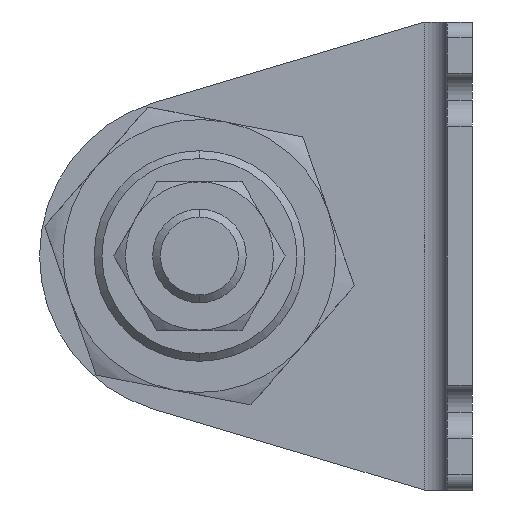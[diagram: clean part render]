
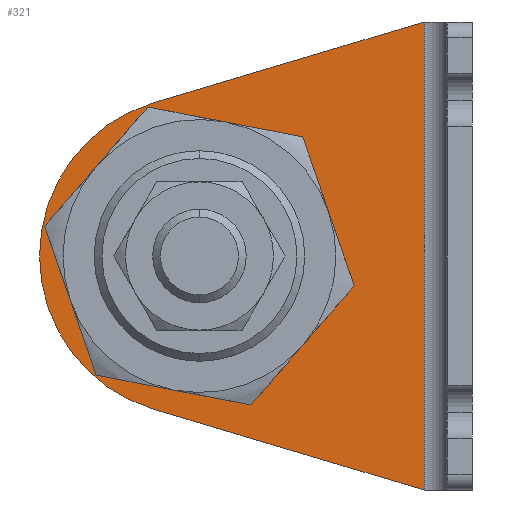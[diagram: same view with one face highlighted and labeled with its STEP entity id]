
A CAD part, left-side view. The second image highlights one B-rep face of the part: STEP entity #321.
In plain terms, the highlighted planar face has unit normal (-1, 0, 0) as drawn and (1, 0, 0) by its records, which use the part's own axes.
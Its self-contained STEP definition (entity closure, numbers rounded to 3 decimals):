
#66 = CARTESIAN_POINT ( 'NONE',  ( 3.2, 6.2, -60. ) ) ;
#124 = EDGE_CURVE ( 'NONE', #1640, #2498, #2735, .T. ) ;
#160 = ORIENTED_EDGE ( 'NONE', *, *, #2937, .T. ) ;
#205 = CARTESIAN_POINT ( 'NONE',  ( 3.2, 40.868, -49.642 ) ) ;
#275 = CARTESIAN_POINT ( 'NONE',  ( 3.2, 6.2, 0. ) ) ;
#284 = CARTESIAN_POINT ( 'NONE',  ( 3.2, 6.2, -60. ) ) ;
#313 = DIRECTION ( 'NONE',  ( 0., 1., 0. ) ) ;
#321 = ADVANCED_FACE ( 'NONE', ( #717, #616 ), #4004, .T. ) ;
#358 = CIRCLE ( 'NONE', #1111, 20.5 ) ;
#395 = DIRECTION ( 'NONE',  ( 0., 1., 0. ) ) ;
#490 = VERTEX_POINT ( 'NONE', #738 ) ;
#616 = FACE_OUTER_BOUND ( 'NONE', #1314, .T. ) ;
#717 = FACE_BOUND ( 'NONE', #4203, .T. ) ;
#738 = CARTESIAN_POINT ( 'NONE',  ( 3.2, 48.5, -30. ) ) ;
#749 = AXIS2_PLACEMENT_3D ( 'NONE', #2718, #2079, #395 ) ;
#796 = VERTEX_POINT ( 'NONE', #205 ) ;
#973 = AXIS2_PLACEMENT_3D ( 'NONE', #2663, #2623, #313 ) ;
#1028 = DIRECTION ( 'NONE',  ( 1., 0., 0. ) ) ;
#1050 = AXIS2_PLACEMENT_3D ( 'NONE', #3806, #3828, #3179 ) ;
#1111 = AXIS2_PLACEMENT_3D ( 'NONE', #2467, #2454, #3433 ) ;
#1294 = DIRECTION ( 'NONE',  ( 0., 0., -1. ) ) ;
#1314 = EDGE_LOOP ( 'NONE', ( #160, #3111, #2617, #2017, #3717 ) ) ;
#1616 = DIRECTION ( 'NONE',  ( 0., 0.958, -0.286 ) ) ;
#1640 = VERTEX_POINT ( 'NONE', #275 ) ;
#1666 = DIRECTION ( 'NONE',  ( 0., 1., 0. ) ) ;
#1740 = EDGE_CURVE ( 'NONE', #1640, #3005, #2110, .T. ) ;
#1903 = AXIS2_PLACEMENT_3D ( 'NONE', #2363, #1028, #1666 ) ;
#2017 = ORIENTED_EDGE ( 'NONE', *, *, #1740, .F. ) ;
#2079 = DIRECTION ( 'NONE',  ( 1., 0., 0. ) ) ;
#2110 = LINE ( 'NONE', #3981, #3925 ) ;
#2114 = LINE ( 'NONE', #2465, #3349 ) ;
#2124 = DIRECTION ( 'NONE',  ( 0., 0.958, 0.286 ) ) ;
#2363 = CARTESIAN_POINT ( 'NONE',  ( 3.2, 3.2, -60. ) ) ;
#2366 = EDGE_CURVE ( 'NONE', #3611, #490, #2902, .T. ) ;
#2429 = VECTOR ( 'NONE', #1294, 1000. ) ;
#2454 = DIRECTION ( 'NONE',  ( 1., 0., 0. ) ) ;
#2465 = CARTESIAN_POINT ( 'NONE',  ( 3.2, 3.446, -60.823 ) ) ;
#2467 = CARTESIAN_POINT ( 'NONE',  ( 3.2, 35., -30. ) ) ;
#2498 = VERTEX_POINT ( 'NONE', #66 ) ;
#2502 = ORIENTED_EDGE ( 'NONE', *, *, #2809, .F. ) ;
#2541 = CARTESIAN_POINT ( 'NONE',  ( 3.2, 40.868, -10.358 ) ) ;
#2617 = ORIENTED_EDGE ( 'NONE', *, *, #2705, .T. ) ;
#2623 = DIRECTION ( 'NONE',  ( 1., 0., 0. ) ) ;
#2641 = EDGE_CURVE ( 'NONE', #796, #4302, #358, .T. ) ;
#2663 = CARTESIAN_POINT ( 'NONE',  ( 3.2, 35., -30. ) ) ;
#2705 = EDGE_CURVE ( 'NONE', #4302, #3005, #3002, .T. ) ;
#2718 = CARTESIAN_POINT ( 'NONE',  ( 3.2, 35., -30. ) ) ;
#2735 = LINE ( 'NONE', #284, #2429 ) ;
#2809 = EDGE_CURVE ( 'NONE', #490, #3611, #3714, .T. ) ;
#2822 = ORIENTED_EDGE ( 'NONE', *, *, #2366, .F. ) ;
#2902 = CIRCLE ( 'NONE', #973, 13.5 ) ;
#2937 = EDGE_CURVE ( 'NONE', #2498, #796, #2114, .T. ) ;
#3002 = CIRCLE ( 'NONE', #749, 20.5 ) ;
#3005 = VERTEX_POINT ( 'NONE', #2541 ) ;
#3111 = ORIENTED_EDGE ( 'NONE', *, *, #2641, .T. ) ;
#3179 = DIRECTION ( 'NONE',  ( 0., 1., 0. ) ) ;
#3349 = VECTOR ( 'NONE', #2124, 1000. ) ;
#3433 = DIRECTION ( 'NONE',  ( 0., 1., 0. ) ) ;
#3611 = VERTEX_POINT ( 'NONE', #3941 ) ;
#3714 = CIRCLE ( 'NONE', #1050, 13.5 ) ;
#3717 = ORIENTED_EDGE ( 'NONE', *, *, #124, .T. ) ;
#3806 = CARTESIAN_POINT ( 'NONE',  ( 3.2, 35., -30. ) ) ;
#3828 = DIRECTION ( 'NONE',  ( 1., 0., 0. ) ) ;
#3925 = VECTOR ( 'NONE', #1616, 1000. ) ;
#3941 = CARTESIAN_POINT ( 'NONE',  ( 3.2, 21.5, -30. ) ) ;
#3981 = CARTESIAN_POINT ( 'NONE',  ( 3.2, 19.903, -4.094 ) ) ;
#4004 = PLANE ( 'NONE',  #1903 ) ;
#4149 = CARTESIAN_POINT ( 'NONE',  ( 3.2, 55.5, -30. ) ) ;
#4203 = EDGE_LOOP ( 'NONE', ( #2502, #2822 ) ) ;
#4302 = VERTEX_POINT ( 'NONE', #4149 ) ;
